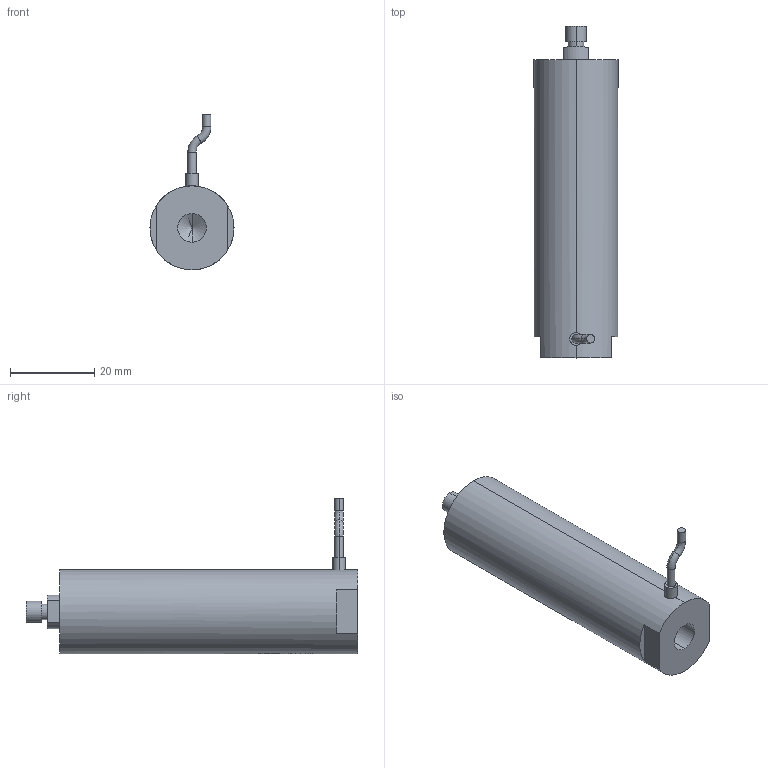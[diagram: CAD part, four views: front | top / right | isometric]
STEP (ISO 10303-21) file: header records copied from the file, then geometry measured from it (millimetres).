
FILE_DESCRIPTION (( 'STEP AP203' ), '1' );
FILE_NAME ('ﾍ篦ﾝﾎﾆﾊｽ60VS20.STEP', '2021-07-08T06:09:05', ( 'ﾎ｢ﾈ橆ﾃｻｧ' ), ( 'ﾎ｢ﾈ晥ｫﾋｾ' ), 'SwSTEP 2.0', 'SolidWorks 2016', '' );
FILE_SCHEMA (( 'CONFIG_CONTROL_DESIGN' ));
Products named in the file (1): 俋蹟恇宒60VS20
Bounding box: 20 x 79 x 37.06 mm (x, y, z)
Volume: 22068.1 mm3; surface area: 5612.1 mm2
Topology: 1 solids, 1 shells, 937 faces, 2531 edges, 1683 vertices
Faces by surface type: bspline 519, plane 301, cylinder 111, torus 4, cone 2
Entity records: 45324 total; most frequent: CARTESIAN_POINT 26379, ORIENTED_EDGE 5058, EDGE_CURVE 2529, DIRECTION 1911, B_SPLINE_CURVE_WITH_KNOTS 1720, VERTEX_POINT 1683, EDGE_LOOP 1026, FACE_OUTER_BOUND 937
